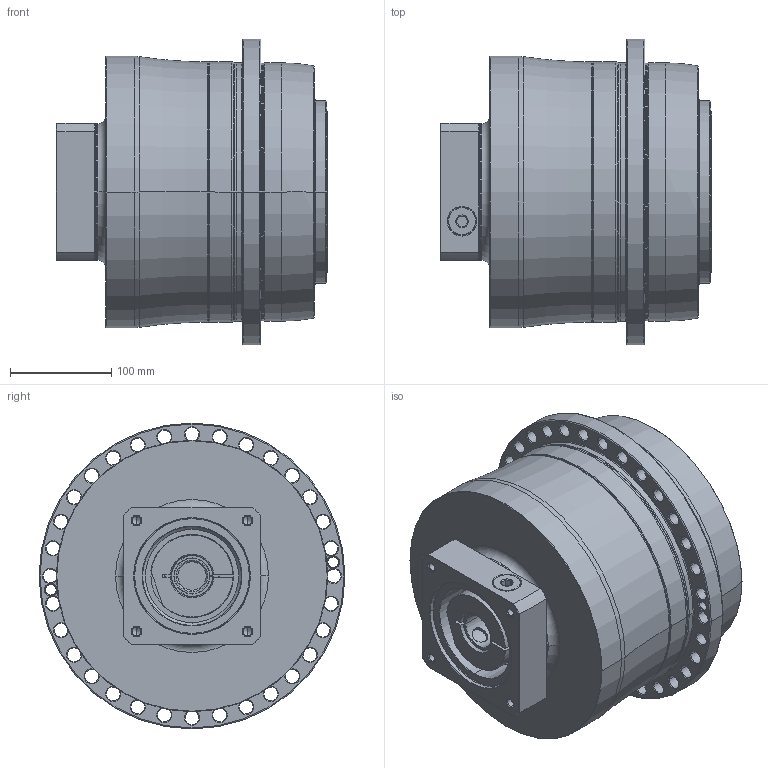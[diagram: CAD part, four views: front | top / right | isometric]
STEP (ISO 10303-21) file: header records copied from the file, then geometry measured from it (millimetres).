
FILE_DESCRIPTION((''),'2;1');
FILE_NAME('AP255_2ST_35-P0409800201_ASM','2018-05-30T',('d01226'),(''),'PRO/ENGINEER BY PARAMETRIC TECHNOLOGY CORPORATION, 2008410','PRO/ENGINEER BY PARAMETRIC TECHNOLOGY CORPORATION, 2008410','');
FILE_SCHEMA(('CONFIG_CONTROL_DESIGN'));
Length unit declared in the file: millimetre
Products named in the file (9): P0278701003; P0359701103; P1317710101; P0503800012; P0912601001; P1211700001; P0409800201; 21711422019; AP255_2ST_35-P0409800201_ASM
Assembly tree (8 placements, depth 2):
  AP255_2ST_35-P0409800201_ASM
    P0278701003
    P0359701103
    P1317710101
    P0503800012
    P0912601001
    P1211700001
    P0409800201
    21711422019
Bounding box: 268 x 302 x 302 mm (x, y, z)
Volume: 10872918 mm3; surface area: 737326.2 mm2
Topology: 9 solids, 32 shells, 685 faces, 1635 edges, 993 vertices
Faces by surface type: cylinder 274, cone 224, plane 101, torus 72, bspline 14
Entity records: 24896 total; most frequent: CARTESIAN_POINT 8160, DIRECTION 3865, ORIENTED_EDGE 3156, AXIS2_PLACEMENT_3D 1651, EDGE_CURVE 1625, VERTEX_POINT 993, CIRCLE 951, EDGE_LOOP 828
